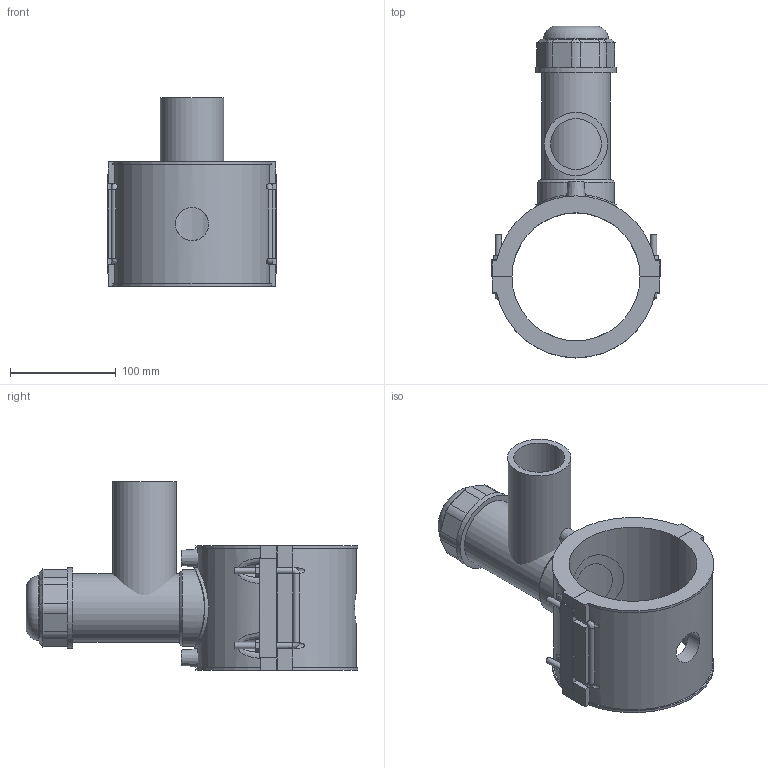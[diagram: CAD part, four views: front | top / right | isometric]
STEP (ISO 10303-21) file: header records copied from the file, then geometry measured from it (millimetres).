
FILE_DESCRIPTION(/* description */ ('PLASSON TAPPING SADDLE 4''''DIPS x 2''''IPS'),/* implementation_level */ '2;1');
FILE_NAME(/* name */ 'C:\Dropbox\KIMPROJECTS-Inventor 2019\99-16-3568-Processing Inch\ASTM ElectroFusion 2021\5963DBP_5963BUP\5963DBP3040020.ipt.stp',/* time_stamp */ '2021-08-30T09:58:25+03:00',/* author */ ('KIM'),/* organization */ (''),/* preprocessor_version */ 'ST-DEVELOPER v17.2',/* originating_system */ 'Autodesk Inventor 2019',/* authorisation */ '');
FILE_SCHEMA (('AUTOMOTIVE_DESIGN { 1 0 10303 214 3 1 1 }'));
Length unit declared in the file: inch
Products named in the file (1): 5963DBP3040020
Bounding box: 161 x 314.4 x 178.94 mm (x, y, z)
Volume: 1244027.8 mm3; surface area: 249268.9 mm2
Topology: 3 solids, 3 shells, 194 faces, 502 edges, 328 vertices
Faces by surface type: plane 118, cylinder 52, cone 15, bspline 8, torus 1
Full cylindrical faces by diameter (mm): 4 x2, 6 x8, 10 x2, 31.36 x1, 48.08 x1, 53.493 x1, 60.1 x1, 61.135 x1, 64.956 x1, 72.598 x1, 76.419 x2
Entity records: 7083 total; most frequent: CARTESIAN_POINT 2282, ORIENTED_EDGE 1004, DIRECTION 953, EDGE_CURVE 502, VERTEX_POINT 328, AXIS2_PLACEMENT_3D 322, LINE 309, VECTOR 309
